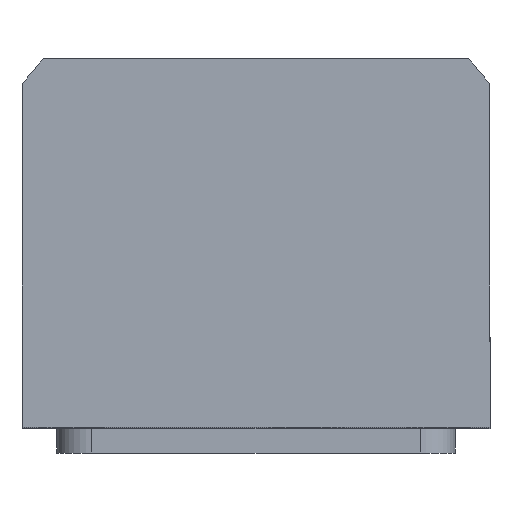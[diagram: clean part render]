
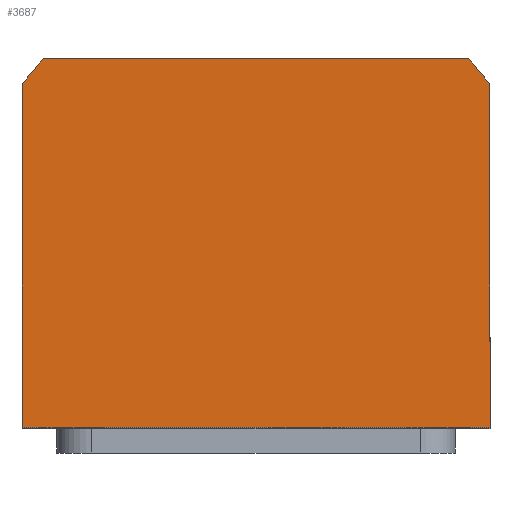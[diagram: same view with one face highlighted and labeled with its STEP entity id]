
A CAD part, top view. The second image highlights one B-rep face of the part: STEP entity #3687.
In plain terms, the highlighted planar face has unit normal (0, 0, 1).
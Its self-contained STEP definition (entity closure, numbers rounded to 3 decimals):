
#22 = VERTEX_POINT ( 'NONE', #6420 ) ;
#178 = DIRECTION ( 'NONE',  ( 1., 0., 0. ) ) ;
#210 = DIRECTION ( 'NONE',  ( 1., 0., 0. ) ) ;
#271 = CIRCLE ( 'NONE', #8959, 58.5 ) ;
#297 = LINE ( 'NONE', #5718, #7098 ) ;
#720 = CARTESIAN_POINT ( 'NONE',  ( -47., -34., 75. ) ) ;
#734 = LINE ( 'NONE', #7357, #5366 ) ;
#757 = ORIENTED_EDGE ( 'NONE', *, *, #8995, .T. ) ;
#899 = ORIENTED_EDGE ( 'NONE', *, *, #2541, .T. ) ;
#1042 = CARTESIAN_POINT ( 'NONE',  ( 47., -34., 75. ) ) ;
#1313 = CARTESIAN_POINT ( 'NONE',  ( -47., 34.832, 75. ) ) ;
#1571 = VERTEX_POINT ( 'NONE', #5778 ) ;
#1641 = ORIENTED_EDGE ( 'NONE', *, *, #10904, .T. ) ;
#2204 = VERTEX_POINT ( 'NONE', #8495 ) ;
#2348 = DIRECTION ( 'NONE',  ( 0., 0., 1. ) ) ;
#2502 = ORIENTED_EDGE ( 'NONE', *, *, #4689, .T. ) ;
#2541 = EDGE_CURVE ( 'NONE', #22, #6514, #271, .T. ) ;
#2916 = LINE ( 'NONE', #720, #5708 ) ;
#2944 = CARTESIAN_POINT ( 'NONE',  ( 47., 34.832, 75. ) ) ;
#3300 = ORIENTED_EDGE ( 'NONE', *, *, #8217, .T. ) ;
#3322 = DIRECTION ( 'NONE',  ( 0., -1., 0. ) ) ;
#3529 = DIRECTION ( 'NONE',  ( 0., 0., 1. ) ) ;
#3653 = CIRCLE ( 'NONE', #7765, 58.5 ) ;
#3687 = ADVANCED_FACE ( 'NONE', ( #7588 ), #4413, .T. ) ;
#3934 = CARTESIAN_POINT ( 'NONE',  ( 0., 0., 75. ) ) ;
#4413 = PLANE ( 'NONE',  #9245 ) ;
#4428 = VERTEX_POINT ( 'NONE', #2944 ) ;
#4481 = CARTESIAN_POINT ( 'NONE',  ( 0., 0., 75. ) ) ;
#4689 = EDGE_CURVE ( 'NONE', #6514, #1571, #2916, .T. ) ;
#5269 = CARTESIAN_POINT ( 'NONE',  ( 42.688, 40., 75. ) ) ;
#5366 = VECTOR ( 'NONE', #5681, 1000. ) ;
#5376 = DIRECTION ( 'NONE',  ( 0., 0., 1. ) ) ;
#5681 = DIRECTION ( 'NONE',  ( 0., 1., 0. ) ) ;
#5708 = VECTOR ( 'NONE', #3322, 1000. ) ;
#5718 = CARTESIAN_POINT ( 'NONE',  ( -42.688, 40., 75. ) ) ;
#5778 = CARTESIAN_POINT ( 'NONE',  ( -47., -34., 75. ) ) ;
#5985 = DIRECTION ( 'NONE',  ( -1., 0., 0. ) ) ;
#6081 = VERTEX_POINT ( 'NONE', #5269 ) ;
#6310 = EDGE_LOOP ( 'NONE', ( #757, #8273, #1641, #3300, #899, #2502 ) ) ;
#6420 = CARTESIAN_POINT ( 'NONE',  ( -42.688, 40., 75. ) ) ;
#6514 = VERTEX_POINT ( 'NONE', #1313 ) ;
#6534 = LINE ( 'NONE', #1042, #8146 ) ;
#6808 = EDGE_CURVE ( 'NONE', #2204, #4428, #734, .T. ) ;
#6965 = DIRECTION ( 'NONE',  ( 1., 0., 0. ) ) ;
#6994 = CARTESIAN_POINT ( 'NONE',  ( 0., 0., 75. ) ) ;
#7098 = VECTOR ( 'NONE', #5985, 1000. ) ;
#7357 = CARTESIAN_POINT ( 'NONE',  ( 47., 34.832, 75. ) ) ;
#7588 = FACE_OUTER_BOUND ( 'NONE', #6310, .T. ) ;
#7765 = AXIS2_PLACEMENT_3D ( 'NONE', #3934, #2348, #9085 ) ;
#8146 = VECTOR ( 'NONE', #6965, 1000. ) ;
#8217 = EDGE_CURVE ( 'NONE', #6081, #22, #297, .T. ) ;
#8273 = ORIENTED_EDGE ( 'NONE', *, *, #6808, .T. ) ;
#8495 = CARTESIAN_POINT ( 'NONE',  ( 47., -34., 75. ) ) ;
#8959 = AXIS2_PLACEMENT_3D ( 'NONE', #4481, #5376, #210 ) ;
#8995 = EDGE_CURVE ( 'NONE', #1571, #2204, #6534, .T. ) ;
#9085 = DIRECTION ( 'NONE',  ( 1., 0., 0. ) ) ;
#9245 = AXIS2_PLACEMENT_3D ( 'NONE', #6994, #3529, #178 ) ;
#10904 = EDGE_CURVE ( 'NONE', #4428, #6081, #3653, .T. ) ;
